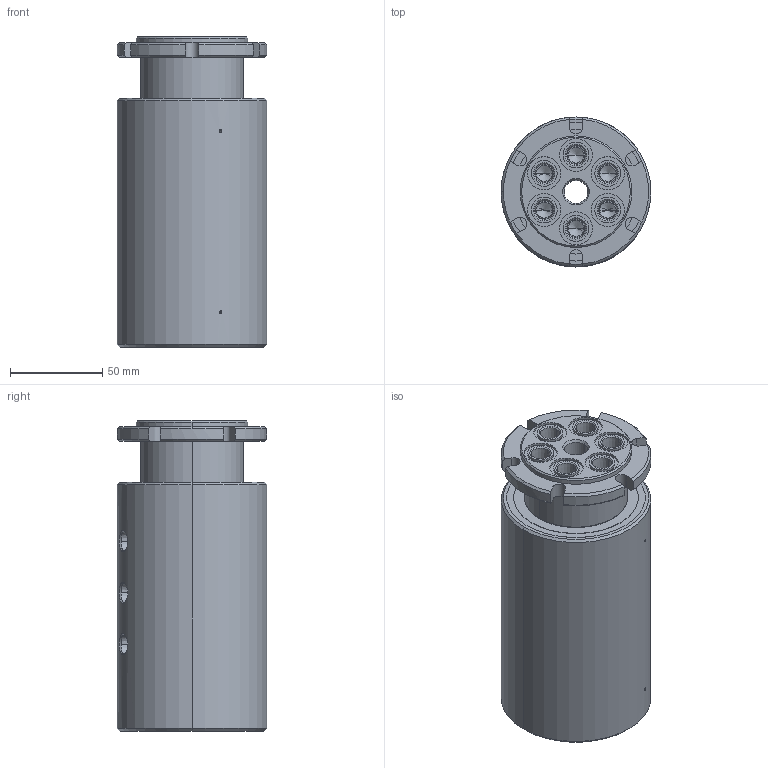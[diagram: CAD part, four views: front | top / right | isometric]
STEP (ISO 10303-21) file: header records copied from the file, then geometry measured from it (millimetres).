
FILE_DESCRIPTION (( 'STEP AP214' ), '1' );
FILE_NAME ('GP(M)-161.STEP', '2013-02-05T22:07:50', ( '' ), ( '' ), 'SwSTEP 2.0', 'SolidWorks 2011', '' );
FILE_SCHEMA (( 'AUTOMOTIVE_DESIGN' ));
Length unit declared in the file: inch
Products named in the file (1): GP(M)-161
Bounding box: 80.95 x 80.95 x 167.84 mm (x, y, z)
Volume: 747211.6 mm3; surface area: 70938 mm2
Topology: 1 solids, 1 shells, 293 faces, 702 edges, 424 vertices
Faces by surface type: cylinder 118, cone 106, plane 55, bspline 12, torus 2
Entity records: 9591 total; most frequent: CARTESIAN_POINT 2566, DIRECTION 1447, ORIENTED_EDGE 1312, EDGE_CURVE 656, AXIS2_PLACEMENT_3D 593, VERTEX_POINT 424, EDGE_LOOP 354, CIRCLE 311
